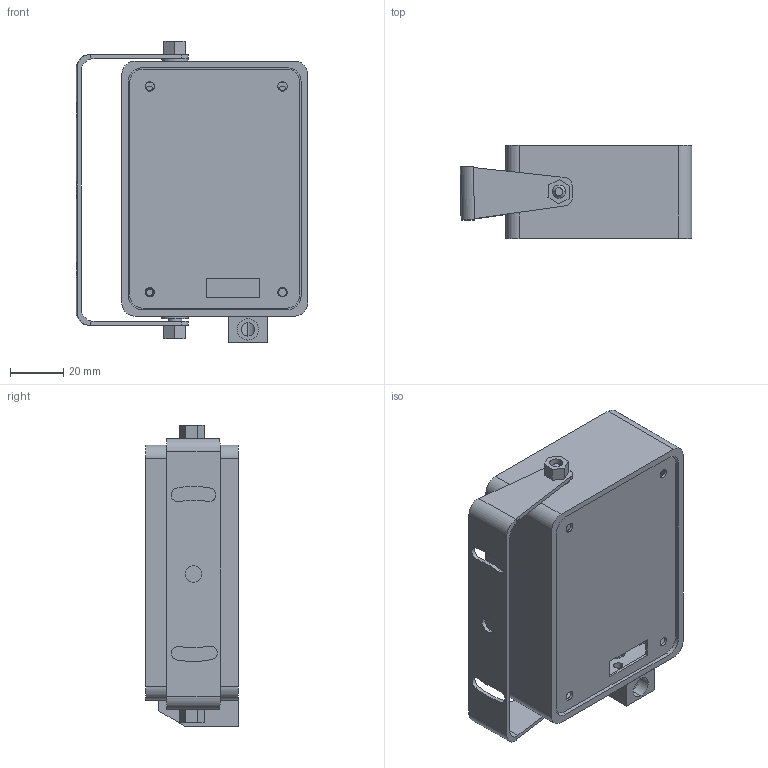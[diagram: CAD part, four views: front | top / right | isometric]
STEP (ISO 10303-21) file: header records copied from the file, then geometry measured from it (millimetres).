
FILE_DESCRIPTION (( 'STEP AP203' ), '1' );
FILE_NAME ('BC-02.STEP', '2017-10-05T18:11:42', ( '' ), ( '' ), 'SwSTEP 2.0', 'SolidWorks 2014', '' );
FILE_SCHEMA (( 'CONFIG_CONTROL_DESIGN' ));
Length unit declared in the file: millimetre
Products named in the file (11): podložka teflon; šroub M5 - okrasný; držák; matice mojistná M5; základní deska - displej; BC-02; t骴o BC-02-II; pøechod pro snímaè; krycí plexi BC-02; zadní kryt; polep BC-02
Assembly tree (13 placements, depth 2):
  BC-02
    t骴o BC-02-II
    základní deska - displej
    zadní kryt
    krycí plexi BC-02
    polep BC-02
    pøechod pro snímaè
    držák
    šroub M5 - okrasný  x2
    podložka teflon  x2
    matice mojistná M5  x2
Bounding box: 87.15 x 35 x 113.5 mm (x, y, z)
Volume: 94482.6 mm3; surface area: 84188.2 mm2
Topology: 13 solids, 13 shells, 604 faces, 1618 edges, 1070 vertices
Faces by surface type: plane 386, cylinder 202, torus 8, cone 8
Entity records: 18711 total; most frequent: CARTESIAN_POINT 3153, DIRECTION 2972, ORIENTED_EDGE 2964, EDGE_CURVE 1482, LINE 1062, VECTOR 1062, VERTEX_POINT 982, AXIS2_PLACEMENT_3D 955
